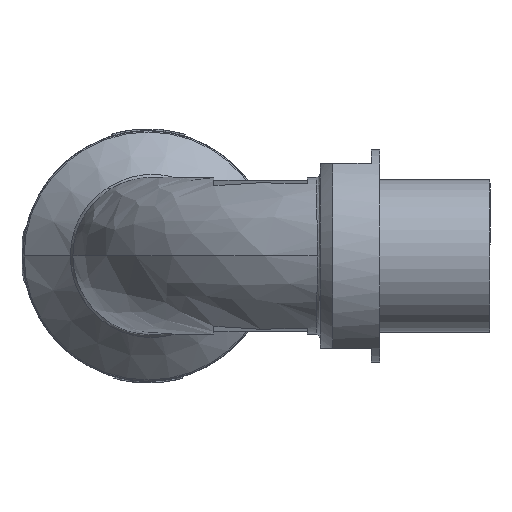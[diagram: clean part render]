
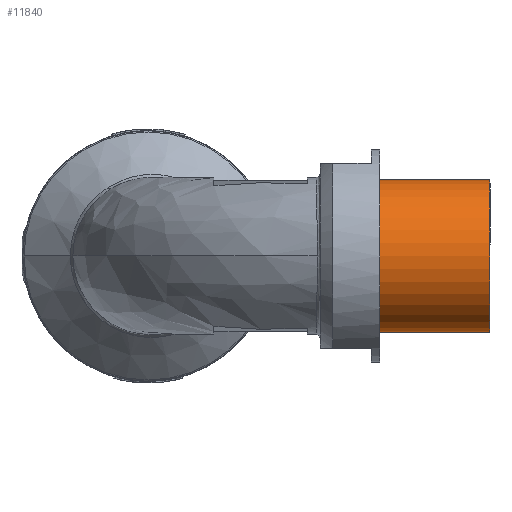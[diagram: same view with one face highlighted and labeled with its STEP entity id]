
A CAD part, left-side view. The second image highlights one B-rep face of the part: STEP entity #11840.
In plain terms, the highlighted cylindrical face has radius 9.135 mm (diameter 18.27 mm), a partial arc.
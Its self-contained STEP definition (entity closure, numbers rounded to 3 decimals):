
#2012 = CIRCLE ( 'NONE', #26615, 9.135 ) ;
#2056 = CIRCLE ( 'NONE', #26628, 9.135 ) ;
#4380 = CARTESIAN_POINT ( 'NONE',  ( -59.984, -57.672, 0. ) ) ;
#4390 = DIRECTION ( 'NONE',  ( 0., -1., 0. ) ) ;
#4391 = DIRECTION ( 'NONE',  ( 0., 0., 1. ) ) ;
#4564 = CARTESIAN_POINT ( 'NONE',  ( -59.984, -70.88, 0. ) ) ;
#4570 = DIRECTION ( 'NONE',  ( 0., -1., 0. ) ) ;
#4571 = DIRECTION ( 'NONE',  ( 0., 0., 1. ) ) ;
#5926 = CARTESIAN_POINT ( 'NONE',  ( -59.984, -57.672, 9.135 ) ) ;
#5994 = CARTESIAN_POINT ( 'NONE',  ( -59.984, -70.88, -9.135 ) ) ;
#6044 = CARTESIAN_POINT ( 'NONE',  ( -59.984, -57.672, -9.135 ) ) ;
#6053 = CARTESIAN_POINT ( 'NONE',  ( -59.984, -70.88, 9.135 ) ) ;
#7377 = CARTESIAN_POINT ( 'NONE',  ( -59.984, -70.88, 0. ) ) ;
#7415 = DIRECTION ( 'NONE',  ( 0., 1., 0. ) ) ;
#7417 = DIRECTION ( 'NONE',  ( 0., 0., 1. ) ) ;
#11840 = ADVANCED_FACE ( 'NONE', ( #16477 ), #16488, .T. ) ;
#12283 = ORIENTED_EDGE ( 'NONE', *, *, #17898, .T. ) ;
#12365 = ORIENTED_EDGE ( 'NONE', *, *, #18515, .F. ) ;
#12418 = ORIENTED_EDGE ( 'NONE', *, *, #18497, .T. ) ;
#12433 = ORIENTED_EDGE ( 'NONE', *, *, #17806, .F. ) ;
#14418 = AXIS2_PLACEMENT_3D ( 'NONE', #7377, #7415, #7417 ) ;
#15777 = EDGE_LOOP ( 'NONE', ( #12433, #12365, #12283, #12418 ) ) ;
#16477 = FACE_OUTER_BOUND ( 'NONE', #15777, .T. ) ;
#16488 = CYLINDRICAL_SURFACE ( 'NONE', #14418, 9.135 ) ;
#17806 = EDGE_CURVE ( 'NONE', #22994, #23044, #24713, .T. ) ;
#17898 = EDGE_CURVE ( 'NONE', #23053, #22926, #24787, .T. ) ;
#18497 = EDGE_CURVE ( 'NONE', #22926, #23044, #2012, .T. ) ;
#18515 = EDGE_CURVE ( 'NONE', #23053, #22994, #2056, .T. ) ;
#22926 = VERTEX_POINT ( 'NONE', #5926 ) ;
#22994 = VERTEX_POINT ( 'NONE', #5994 ) ;
#23044 = VERTEX_POINT ( 'NONE', #6044 ) ;
#23053 = VERTEX_POINT ( 'NONE', #6053 ) ;
#24708 = VECTOR ( 'NONE', #25539, 1000. ) ;
#24713 = LINE ( 'NONE', #25538, #24708 ) ;
#24785 = VECTOR ( 'NONE', #26103, 1000. ) ;
#24787 = LINE ( 'NONE', #26102, #24785 ) ;
#25538 = CARTESIAN_POINT ( 'NONE',  ( -59.984, -70.88, -9.135 ) ) ;
#25539 = DIRECTION ( 'NONE',  ( 0., 1., 0. ) ) ;
#26102 = CARTESIAN_POINT ( 'NONE',  ( -59.984, -70.88, 9.135 ) ) ;
#26103 = DIRECTION ( 'NONE',  ( 0., 1., 0. ) ) ;
#26615 = AXIS2_PLACEMENT_3D ( 'NONE', #4380, #4390, #4391 ) ;
#26628 = AXIS2_PLACEMENT_3D ( 'NONE', #4564, #4570, #4571 ) ;
